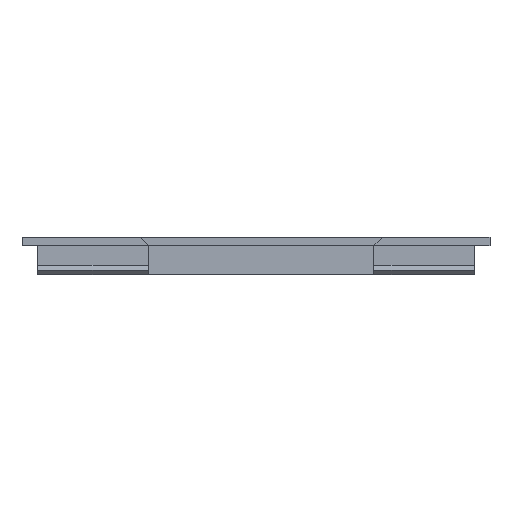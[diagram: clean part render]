
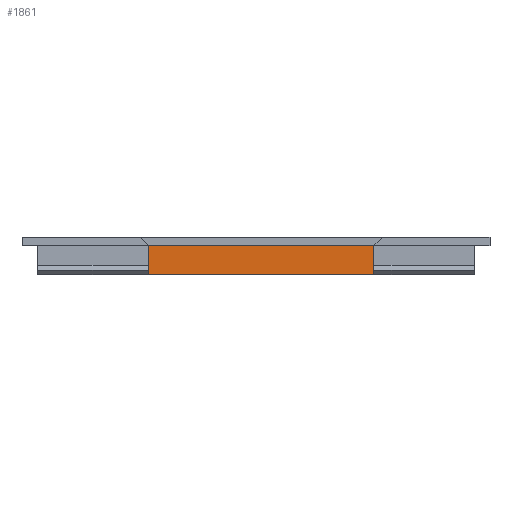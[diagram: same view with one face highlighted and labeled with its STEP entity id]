
A CAD part, front view. The second image highlights one B-rep face of the part: STEP entity #1861.
In plain terms, the highlighted planar face has unit normal (0, -1, 0).
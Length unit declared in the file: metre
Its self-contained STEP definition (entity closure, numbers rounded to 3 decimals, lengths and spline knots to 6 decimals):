
#200=ORIENTED_EDGE('',*,*,#712,.F.);
#201=ORIENTED_EDGE('',*,*,#713,.F.);
#202=ORIENTED_EDGE('',*,*,#714,.T.);
#203=ORIENTED_EDGE('',*,*,#600,.T.);
#600=EDGE_CURVE('',#867,#866,#1040,.T.);
#712=EDGE_CURVE('',#962,#866,#1148,.T.);
#713=EDGE_CURVE('',#963,#962,#1149,.T.);
#714=EDGE_CURVE('',#963,#867,#1150,.T.);
#866=VERTEX_POINT('',#2618);
#867=VERTEX_POINT('',#2620);
#962=VERTEX_POINT('',#2841);
#963=VERTEX_POINT('',#2843);
#1040=LINE('',#2619,#1302);
#1148=LINE('',#2840,#1410);
#1149=LINE('',#2842,#1411);
#1150=LINE('',#2844,#1412);
#1302=VECTOR('',#2108,1.);
#1410=VECTOR('',#2252,1.);
#1411=VECTOR('',#2253,1.);
#1412=VECTOR('',#2254,1.);
#1553=EDGE_LOOP('',(#200,#201,#202,#203));
#1673=FACE_BOUND('',#1553,.T.);
#1768=PLANE('',#1973);
#1861=ADVANCED_FACE('',(#1673),#1768,.T.);
#1973=AXIS2_PLACEMENT_3D('',#2839,#2250,#2251);
#2108=DIRECTION('',(-1.,0.,0.));
#2250=DIRECTION('',(0.,-1.,0.));
#2251=DIRECTION('',(0.,0.,-1.));
#2252=DIRECTION('',(0.,0.,1.));
#2253=DIRECTION('',(-1.,0.,0.));
#2254=DIRECTION('',(0.,0.,1.));
#2618=CARTESIAN_POINT('',(-0.05305,0.0665,0.03115));
#2619=CARTESIAN_POINT('',(0.05305,0.0665,0.03115));
#2620=CARTESIAN_POINT('',(0.05305,0.0665,0.03115));
#2839=CARTESIAN_POINT('',(0.05305,0.0665,0.02765));
#2840=CARTESIAN_POINT('',(-0.05305,0.0665,0.02765));
#2841=CARTESIAN_POINT('',(-0.05305,0.0665,0.02415));
#2842=CARTESIAN_POINT('',(0.05305,0.0665,0.02415));
#2843=CARTESIAN_POINT('',(0.05305,0.0665,0.02415));
#2844=CARTESIAN_POINT('',(0.05305,0.0665,0.02765));
